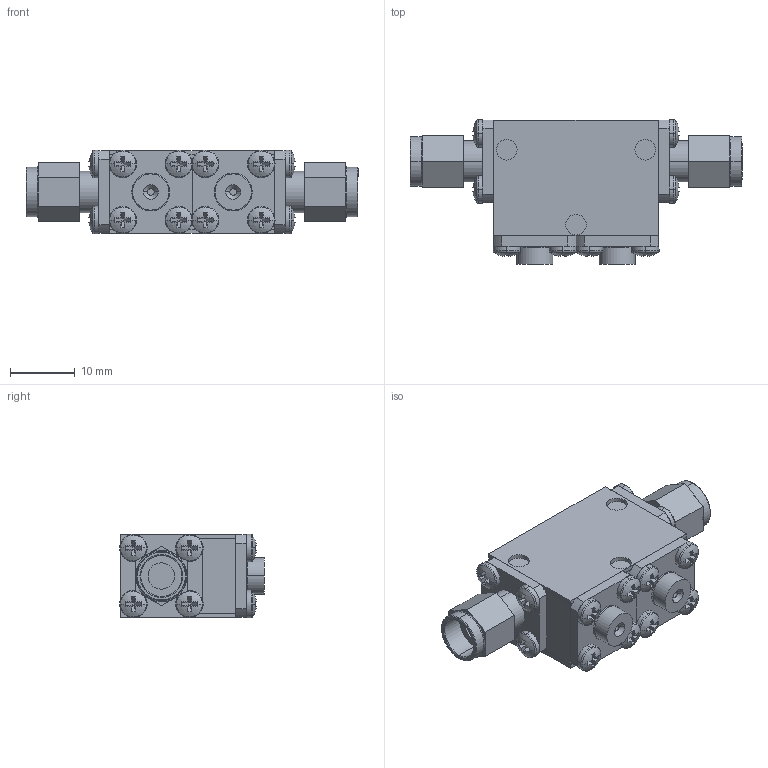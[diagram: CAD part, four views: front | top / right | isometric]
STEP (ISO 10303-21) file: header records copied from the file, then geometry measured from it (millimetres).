
FILE_DESCRIPTION (( 'STEP AP214' ), '1' );
FILE_NAME ('Package 16 Iso MM.step', '2021-12-01T20:58:42', ( '' ), ( '' ), 'SwSTEP 2.0', 'SolidWorks 2016', '' );
FILE_SCHEMA (( 'AUTOMOTIVE_DESIGN' ));
Length unit declared in the file: inch
Products named in the file (6): Package 16 Iso MM; Package Size 16; 030013-1A Same Base thickness as connectors; Delta SMA-Male; Package 16; pan cross head_ai_CR-PHMS 0.086-56x0.125x0.125-N
Assembly tree (22 placements, depth 2):
  Package 16 Iso MM
    Package 16
    pan cross head_ai_CR-PHMS 0.086-56x0.125x0.125-N  x16
    030013-1A Same Base thickness as connectors  x2
    Delta SMA-Male  x2
    Package Size 16
Bounding box: 51.16 x 22.31 x 12.88 mm (x, y, z)
Volume: 7734.3 mm3; surface area: 8104.6 mm2
Topology: 22 solids, 22 shells, 554 faces, 1260 edges, 776 vertices
Faces by surface type: plane 314, cylinder 152, torus 48, sphere 32, cone 8
Entity records: 4324 total; most frequent: DIRECTION 784, CARTESIAN_POINT 673, ORIENTED_EDGE 632, EDGE_CURVE 316, AXIS2_PLACEMENT_3D 313, VERTEX_POINT 202, EDGE_LOOP 168, CIRCLE 158
